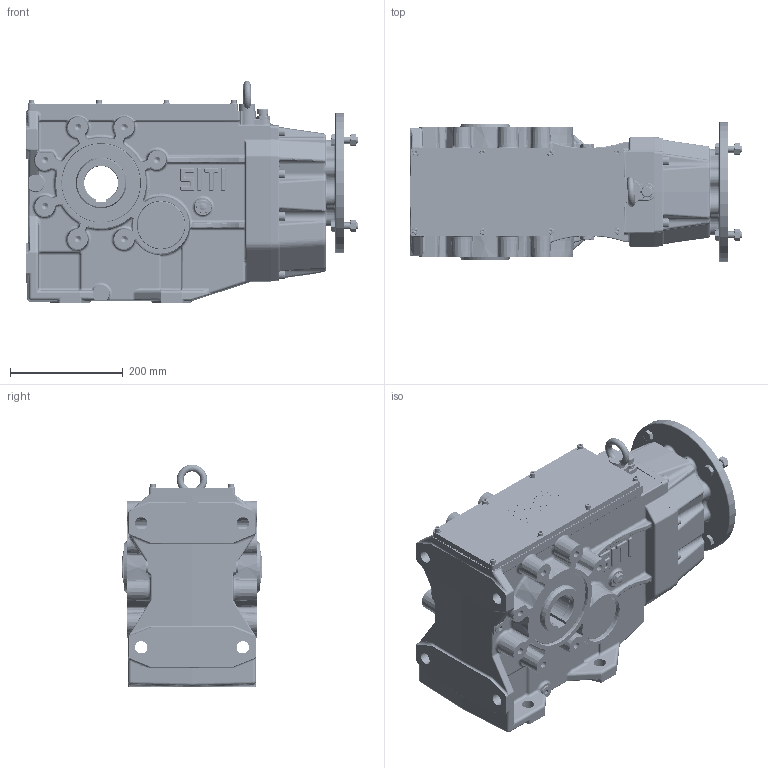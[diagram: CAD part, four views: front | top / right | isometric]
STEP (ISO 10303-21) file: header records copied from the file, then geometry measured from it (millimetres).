
FILE_DESCRIPTION((''),'2;1');
FILE_NAME('O:\Figurini\Figurini BH\3D\125\MBH 125 C PAM 100 B5.stp','2013-05-10T09:23:55',('d.iannaccio'),(''),'Autodesk Inventor 2012','Autodesk Inventor 2012','');
FILE_SCHEMA(('AUTOMOTIVE_DESIGN { 1 0 10303 214 1 1 1 1 }'));
Length unit declared in the file: millimetre
Products named in the file (1): MBH_125 C PAM 100 B5
Bounding box: 589.01 x 250 x 394.99 mm (x, y, z)
Volume: 9216618.2 mm3; surface area: 1887737.3 mm2
Topology: 67 solids, 69 shells, 4402 faces, 10380 edges, 6076 vertices
Faces by surface type: cylinder 1272, plane 1192, bspline 1001, torus 445, cone 282, sphere 210
Full cylindrical faces by diameter (mm): 4.917 x8, 6 x16, 6.4 x8, 6.647 x8, 7 x8, 8 x16, 8.376 x8, 9 x8, 10 x20, 10.106 x3, 11 x10, 11.835 x14, 12 x25, 12.5 x8, 14 x4, 14.95 x8, 16 x9, 18.95 x1, 19 x1, 19.07 x1, 19.5 x1, 20 x1, 22 x8, 25 x1, 30 x2, 36 x1, 37.5 x1, 39.586 x1, 39.986 x2, 47 x1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
Entity records: 155170 total; most frequent: CARTESIAN_POINT 58131, ORIENTED_EDGE 18846, DIRECTION 18701, EDGE_CURVE 9423, AXIS2_PLACEMENT_3D 7803, VERTEX_POINT 5852, EDGE_LOOP 5196, STYLED_ITEM 4469
